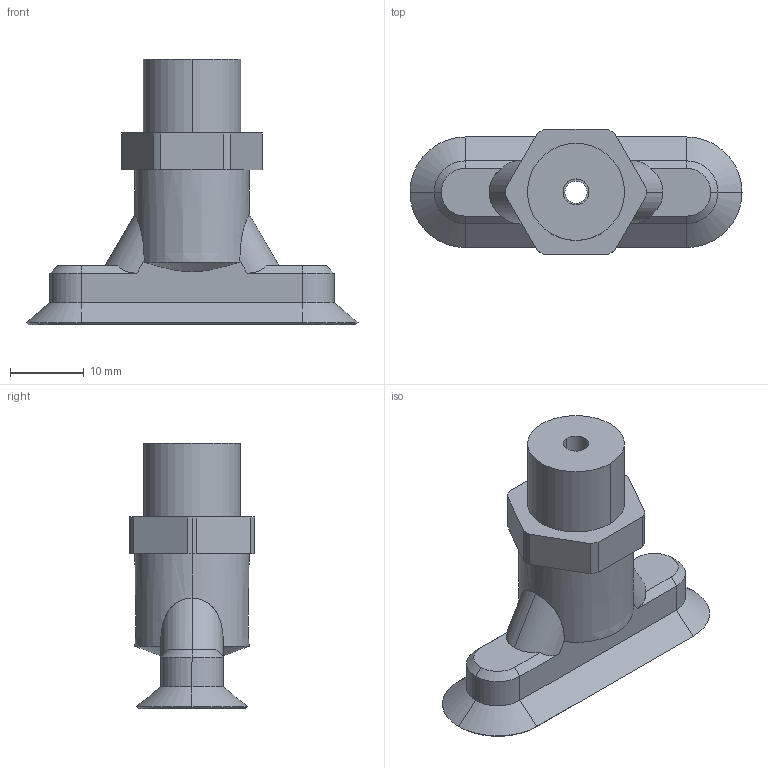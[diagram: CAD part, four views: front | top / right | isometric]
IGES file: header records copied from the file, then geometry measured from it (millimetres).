
Start section: 3D InterOp IGES (v. 2018 1.0.2), Spatial Corp. Copyright (c) 1999-2017.
Global section: file name: schmalz_10_01_05_00098_7m1dzcb109gxn80tyycljnr4u.igs; native system: Spatial Corp.; preprocessor: 3D InterOp ACIS/IGES; author: TraceParts; organization: TraceParts S.A.; date: 20181120.041043; units: millimetre
Bounding box: 45 x 17 x 36 mm (x, y, z)
Surface area: 4029.8 mm2 (no closed solid volume)
Topology: 0 solids, 0 shells, 91 faces, 428 edges, 428 vertices
Faces by surface type: revolution 54, extrusion 37
